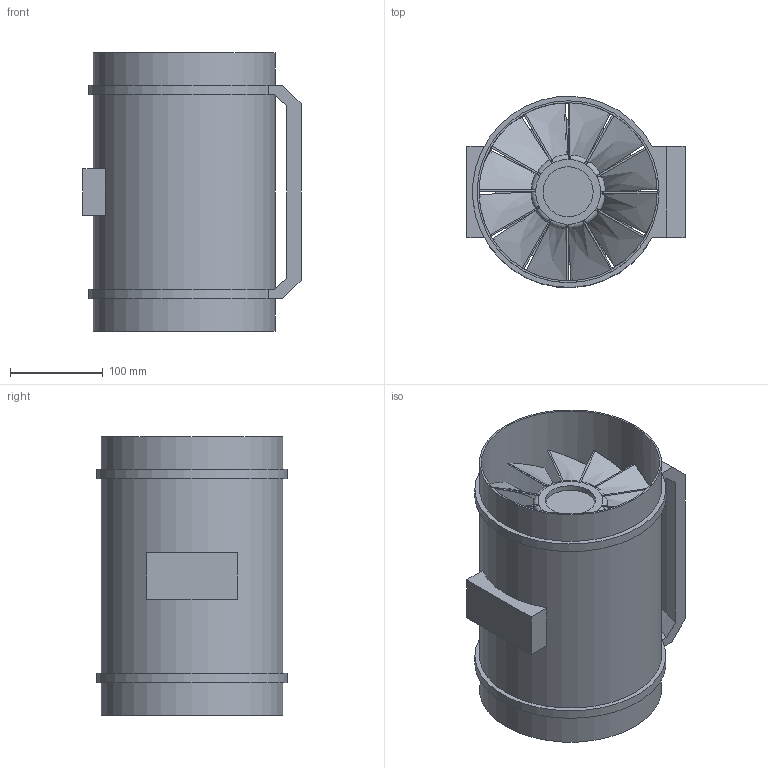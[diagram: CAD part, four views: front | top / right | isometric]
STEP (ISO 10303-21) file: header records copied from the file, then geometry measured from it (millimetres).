
FILE_DESCRIPTION(/* description */ (''),/* implementation_level */ '2;1');
FILE_NAME(/* name */ 'Z:\Output\MV_200-06055-002.stp',/* time_stamp */ '2017-07-19T18:03:04+02:00',/* author */ ('engineering1'),/* organization */ (''),/* preprocessor_version */ 'ST-DEVELOPER v16.5',/* originating_system */ 'Autodesk Inventor 2017',/* authorisation */ '');
FILE_SCHEMA (('AUTOMOTIVE_DESIGN { 1 0 10303 214 3 1 1 }'));
Length unit declared in the file: millimetre
Products named in the file (1): MV-1USER
Bounding box: 235 x 205.73 x 300 mm (x, y, z)
Volume: 4340108.2 mm3; surface area: 665411.1 mm2
Topology: 1 solids, 1 shells, 271 faces, 691 edges, 452 vertices
Faces by surface type: plane 220, bspline 24, torus 13, cylinder 12, cone 2
Full cylindrical faces by diameter (mm): 54 x1, 68 x1, 80 x1, 156 x1, 192 x1, 196 x3
Entity records: 9211 total; most frequent: CARTESIAN_POINT 2451, ORIENTED_EDGE 1352, DIRECTION 1250, EDGE_CURVE 676, VERTEX_POINT 448, LINE 444, VECTOR 444, AXIS2_PLACEMENT_3D 403
